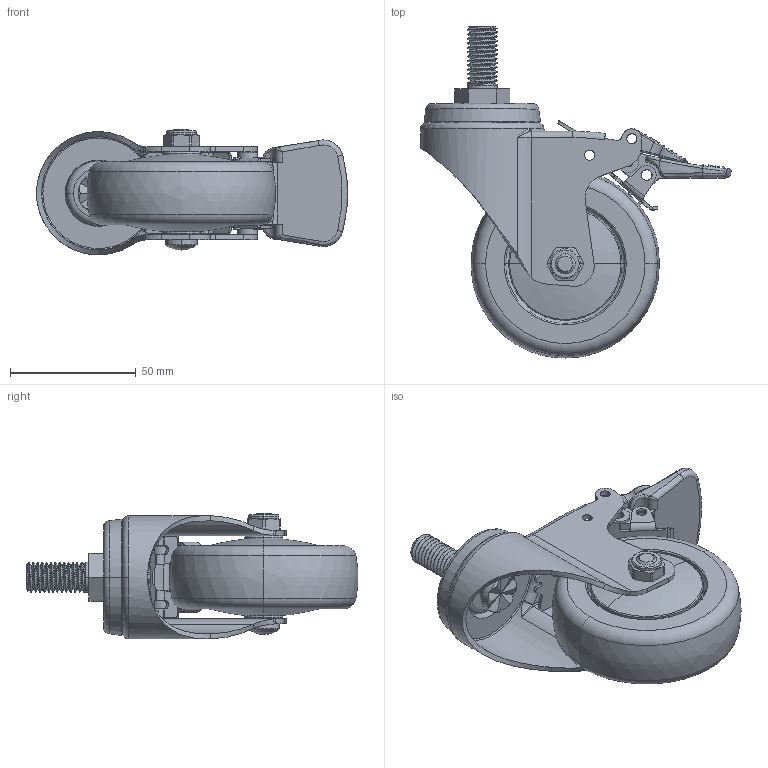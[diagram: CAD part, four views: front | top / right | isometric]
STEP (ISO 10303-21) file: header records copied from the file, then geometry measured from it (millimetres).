
FILE_DESCRIPTION((''),'2;1');
FILE_NAME('37143H_ASM','2026-07-09T',('Lenovo'),(''),'PRO/ENGINEER BY PARAMETRIC TECHNOLOGY CORPORATION, 2010280','PRO/ENGINEER BY PARAMETRIC TECHNOLOGY CORPORATION, 2010280','');
FILE_SCHEMA(('CONFIG_CONTROL_DESIGN'));
Length unit declared in the file: millimetre
Products named in the file (12): 3713-321; 360-23-M12X25; 360-03; 373-907; 373-69; 373-77_ASM; 350-33A; 300-34; 370-64; 371-64; 37125-401; 37143H_ASM
Assembly tree (12 placements, depth 3):
  37143H_ASM
    3713-321
    360-23-M12X25
    360-03
    373-77_ASM
      373-907
      373-69  x2
    350-33A
    300-34
    370-64
    371-64
    37125-401
Bounding box: 123.48 x 131.9 x 49.98 mm (x, y, z)
Volume: 137760.4 mm3; surface area: 68257.9 mm2
Topology: 11 solids, 11 shells, 927 faces, 2283 edges, 1399 vertices
Faces by surface type: plane 369, cylinder 272, bspline 165, torus 82, cone 37, sphere 2
Entity records: 39074 total; most frequent: CARTESIAN_POINT 18454, ORIENTED_EDGE 4442, DIRECTION 3935, EDGE_CURVE 2221, AXIS2_PLACEMENT_3D 1399, VERTEX_POINT 1365, VECTOR 1137, LINE 1137
